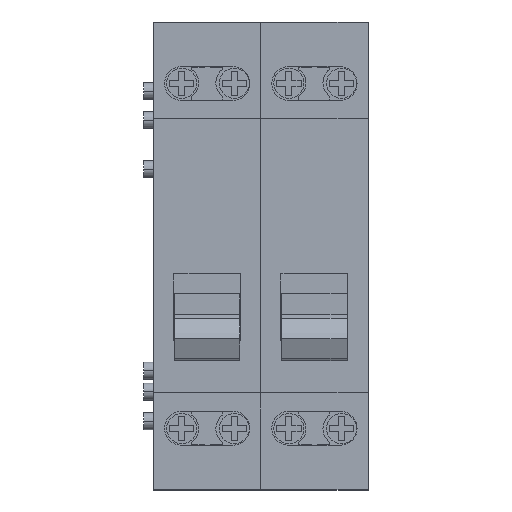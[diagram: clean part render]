
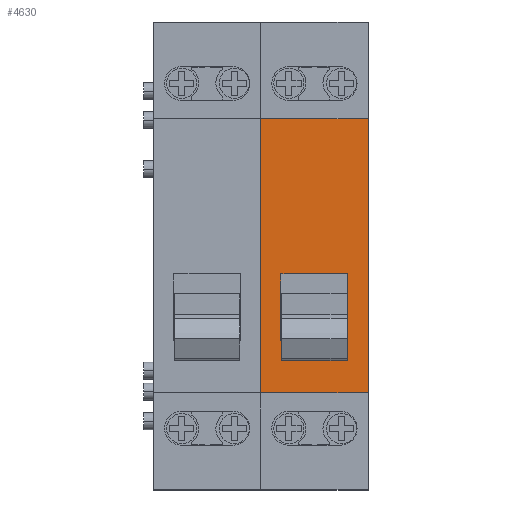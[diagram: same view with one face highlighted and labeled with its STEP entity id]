
A CAD part, top view. The second image highlights one B-rep face of the part: STEP entity #4630.
In plain terms, the highlighted planar face has unit normal (0, 0, 1) as drawn and (0, 1, 0) by its records, which use the part's own axes.
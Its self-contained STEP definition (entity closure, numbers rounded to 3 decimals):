
#284=DIRECTION('',(1.,0.,0.));
#285=VECTOR('',#284,45.);
#286=CARTESIAN_POINT('',(-49.6,55.,17.6));
#287=LINE('',#286,#285);
#588=DIRECTION('',(1.,0.,0.));
#589=VECTOR('',#588,45.);
#590=CARTESIAN_POINT('',(-49.6,55.,0.));
#591=LINE('',#590,#589);
#592=DIRECTION('',(0.,0.,-1.));
#593=VECTOR('',#592,17.6);
#594=CARTESIAN_POINT('',(-49.6,55.,17.6));
#595=LINE('',#594,#593);
#596=DIRECTION('',(-1.,0.,0.));
#597=VECTOR('',#596,11.);
#598=CARTESIAN_POINT('',(-30.1,55.,3.3));
#599=LINE('',#598,#597);
#600=DIRECTION('',(0.,0.,-1.));
#601=VECTOR('',#600,11.);
#602=CARTESIAN_POINT('',(-30.1,55.,14.3));
#603=LINE('',#602,#601);
#608=DIRECTION('',(0.,0.,-1.));
#609=VECTOR('',#608,17.6);
#610=CARTESIAN_POINT('',(-4.6,55.,17.6));
#611=LINE('',#610,#609);
#1542=DIRECTION('',(-1.,0.,0.));
#1543=VECTOR('',#1542,11.);
#1544=CARTESIAN_POINT('',(-30.1,55.,14.3));
#1545=LINE('',#1544,#1543);
#1560=DIRECTION('',(0.,0.,-1.));
#1561=VECTOR('',#1560,11.);
#1562=CARTESIAN_POINT('',(-41.1,55.,14.3));
#1563=LINE('',#1562,#1561);
#3070=CARTESIAN_POINT('',(-4.6,55.,0.));
#3071=VERTEX_POINT('',#3070);
#3072=CARTESIAN_POINT('',(-49.6,55.,0.));
#3073=VERTEX_POINT('',#3072);
#3154=CARTESIAN_POINT('',(-30.1,55.,3.3));
#3155=CARTESIAN_POINT('',(-41.1,55.,3.3));
#3156=VERTEX_POINT('',#3154);
#3157=VERTEX_POINT('',#3155);
#3162=CARTESIAN_POINT('',(-30.1,55.,14.3));
#3163=CARTESIAN_POINT('',(-41.1,55.,14.3));
#3164=VERTEX_POINT('',#3162);
#3165=VERTEX_POINT('',#3163);
#3170=CARTESIAN_POINT('',(-4.6,55.,17.6));
#3171=VERTEX_POINT('',#3170);
#3172=CARTESIAN_POINT('',(-49.6,55.,17.6));
#3173=VERTEX_POINT('',#3172);
#4608=CARTESIAN_POINT('',(-4.6,55.,0.));
#4609=DIRECTION('',(0.,1.,0.));
#4610=DIRECTION('',(-1.,0.,0.));
#4611=AXIS2_PLACEMENT_3D('',#4608,#4609,#4610);
#4612=PLANE('',#4611);
#4613=ORIENTED_EDGE('',*,*,#4051,.T.);
#4615=ORIENTED_EDGE('',*,*,#4614,.F.);
#4616=ORIENTED_EDGE('',*,*,#4332,.F.);
#4617=ORIENTED_EDGE('',*,*,#4601,.T.);
#4618=EDGE_LOOP('',(#4613,#4615,#4616,#4617));
#4619=FACE_OUTER_BOUND('',#4618,.F.);
#4621=ORIENTED_EDGE('',*,*,#4620,.T.);
#4623=ORIENTED_EDGE('',*,*,#4622,.F.);
#4625=ORIENTED_EDGE('',*,*,#4624,.F.);
#4627=ORIENTED_EDGE('',*,*,#4626,.T.);
#4628=EDGE_LOOP('',(#4621,#4623,#4625,#4627));
#4629=FACE_BOUND('',#4628,.F.);
#4051=EDGE_CURVE('',#3073,#3071,#591,.T.);
#4332=EDGE_CURVE('',#3173,#3171,#287,.T.);
#4601=EDGE_CURVE('',#3173,#3073,#595,.T.);
#4614=EDGE_CURVE('',#3171,#3071,#611,.T.);
#4620=EDGE_CURVE('',#3156,#3157,#599,.T.);
#4622=EDGE_CURVE('',#3165,#3157,#1563,.T.);
#4624=EDGE_CURVE('',#3164,#3165,#1545,.T.);
#4626=EDGE_CURVE('',#3164,#3156,#603,.T.);
#4630=ADVANCED_FACE('',(#4619,#4629),#4612,.T.);
